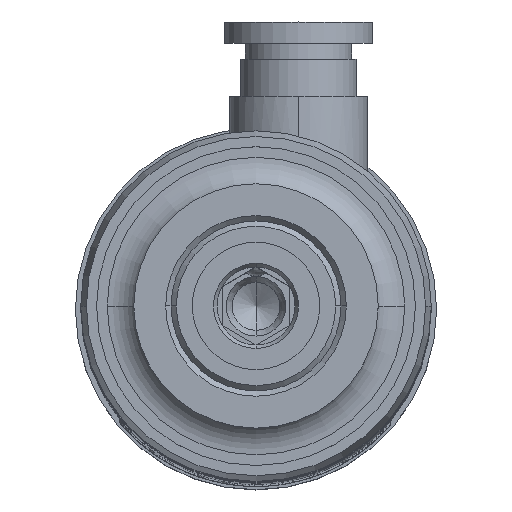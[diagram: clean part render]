
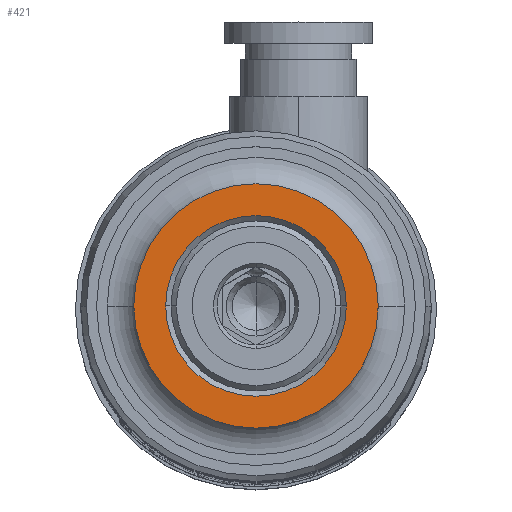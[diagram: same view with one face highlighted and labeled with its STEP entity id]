
A CAD part, top view. The second image highlights one B-rep face of the part: STEP entity #421.
In plain terms, the highlighted planar face has unit normal (0, 0, 1).
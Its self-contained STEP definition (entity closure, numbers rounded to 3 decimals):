
#403 = ORIENTED_EDGE ( 'NONE', *, *, #18951, .F. ) ;
#405 = EDGE_CURVE ( 'NONE', #18938, #18969, #2616, .T. ) ;
#408 = ORIENTED_EDGE ( 'NONE', *, *, #405, .F. ) ;
#409 = EDGE_LOOP ( 'NONE', ( #408, #403 ) ) ;
#421 = ADVANCED_FACE ( 'NONE', ( #2653, #2652 ), #2651, .F. ) ;
#433 = EDGE_CURVE ( 'NONE', #7529, #7526, #2706, .T. ) ;
#708 = ORIENTED_EDGE ( 'NONE', *, *, #7525, .T. ) ;
#709 = ORIENTED_EDGE ( 'NONE', *, *, #433, .T. ) ;
#2567 = CARTESIAN_POINT ( 'NONE',  ( 0., 0., 0. ) ) ;
#2569 = DIRECTION ( 'NONE',  ( 1., 0., 0. ) ) ;
#2614 = DIRECTION ( 'NONE',  ( 0., 0., 1. ) ) ;
#2615 = AXIS2_PLACEMENT_3D ( 'NONE', #2567, #2614, #2569 ) ;
#2616 = CIRCLE ( 'NONE', #2615, 8.5 ) ;
#2648 = DIRECTION ( 'NONE',  ( 0., 0., -1. ) ) ;
#2649 = CARTESIAN_POINT ( 'NONE',  ( 0., 8.5, 0. ) ) ;
#2650 = AXIS2_PLACEMENT_3D ( 'NONE', #2649, #2648, #2710 ) ;
#2651 = PLANE ( 'NONE',  #2650 ) ;
#2652 = FACE_OUTER_BOUND ( 'NONE', #19315, .T. ) ;
#2653 = FACE_BOUND ( 'NONE', #409, .T. ) ;
#2706 = CIRCLE ( 'NONE', #2750, 11.5 ) ;
#2710 = DIRECTION ( 'NONE',  ( -1., 0., 0. ) ) ;
#2750 = AXIS2_PLACEMENT_3D ( 'NONE', #2806, #2805, #2804 ) ;
#2804 = DIRECTION ( 'NONE',  ( 1., 0., 0. ) ) ;
#2805 = DIRECTION ( 'NONE',  ( 0., 0., 1. ) ) ;
#2806 = CARTESIAN_POINT ( 'NONE',  ( 0., 0., 0. ) ) ;
#7525 = EDGE_CURVE ( 'NONE', #7526, #7529, #8274, .T. ) ;
#7526 = VERTEX_POINT ( 'NONE', #8269 ) ;
#7529 = VERTEX_POINT ( 'NONE', #8268 ) ;
#8268 = CARTESIAN_POINT ( 'NONE',  ( -11.5, 0., 0. ) ) ;
#8269 = CARTESIAN_POINT ( 'NONE',  ( 11.5, 0., 0. ) ) ;
#8270 = DIRECTION ( 'NONE',  ( 1., 0., 0. ) ) ;
#8271 = DIRECTION ( 'NONE',  ( 0., 0., 1. ) ) ;
#8272 = CARTESIAN_POINT ( 'NONE',  ( 0., 0., 0. ) ) ;
#8273 = AXIS2_PLACEMENT_3D ( 'NONE', #8272, #8271, #8270 ) ;
#8274 = CIRCLE ( 'NONE', #8273, 11.5 ) ;
#14880 = CARTESIAN_POINT ( 'NONE',  ( 8.5, 0., 0. ) ) ;
#14912 = DIRECTION ( 'NONE',  ( 1., 0., 0. ) ) ;
#14913 = DIRECTION ( 'NONE',  ( 0., 0., 1. ) ) ;
#14914 = AXIS2_PLACEMENT_3D ( 'NONE', #14924, #14913, #14912 ) ;
#14915 = CIRCLE ( 'NONE', #14914, 8.5 ) ;
#14924 = CARTESIAN_POINT ( 'NONE',  ( 0., 0., 0. ) ) ;
#14964 = CARTESIAN_POINT ( 'NONE',  ( -8.5, 0., 0. ) ) ;
#18938 = VERTEX_POINT ( 'NONE', #14880 ) ;
#18951 = EDGE_CURVE ( 'NONE', #18969, #18938, #14915, .T. ) ;
#18969 = VERTEX_POINT ( 'NONE', #14964 ) ;
#19315 = EDGE_LOOP ( 'NONE', ( #708, #709 ) ) ;
